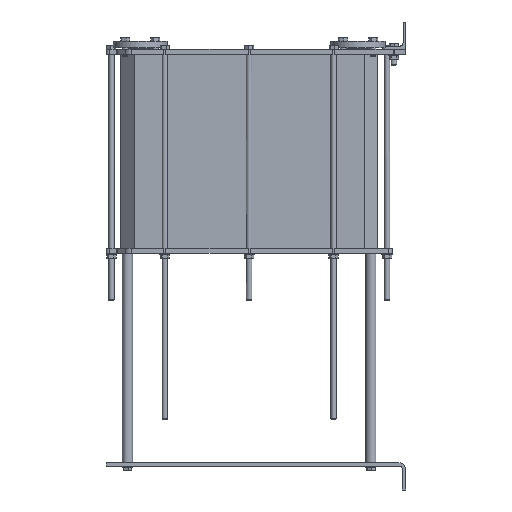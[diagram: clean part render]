
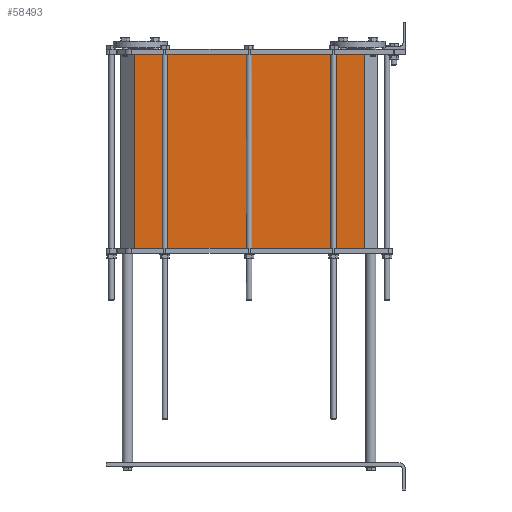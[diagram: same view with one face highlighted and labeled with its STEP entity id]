
A CAD part, left-side view. The second image highlights one B-rep face of the part: STEP entity #58493.
In plain terms, the highlighted planar face has unit normal (-1, 0, 0).
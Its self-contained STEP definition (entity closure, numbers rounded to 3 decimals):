
#3944 = ORIENTED_EDGE ( 'NONE', *, *, #44233, .F. ) ;
#5908 = LINE ( 'NONE', #21683, #57330 ) ;
#8636 = CARTESIAN_POINT ( 'NONE',  ( 22., 122., -95. ) ) ;
#9092 = VECTOR ( 'NONE', #87095, 1000. ) ;
#18294 = EDGE_CURVE ( 'NONE', #81542, #79340, #5908, .T. ) ;
#21683 = CARTESIAN_POINT ( 'NONE',  ( 22., 798., -95. ) ) ;
#35340 = CARTESIAN_POINT ( 'NONE',  ( 22., 122., -95. ) ) ;
#41490 = LINE ( 'NONE', #61319, #76993 ) ;
#42696 = DIRECTION ( 'NONE',  ( -1., 0., 0. ) ) ;
#42757 = CARTESIAN_POINT ( 'NONE',  ( 22., 798., -665. ) ) ;
#43257 = AXIS2_PLACEMENT_3D ( 'NONE', #35340, #42696, #93810 ) ;
#44233 = EDGE_CURVE ( 'NONE', #75331, #51010, #54867, .T. ) ;
#46237 = EDGE_CURVE ( 'NONE', #81542, #75331, #41490, .T. ) ;
#48116 = ORIENTED_EDGE ( 'NONE', *, *, #46237, .F. ) ;
#50109 = CARTESIAN_POINT ( 'NONE',  ( 22., 122., -95. ) ) ;
#51010 = VERTEX_POINT ( 'NONE', #67858 ) ;
#54867 = LINE ( 'NONE', #8636, #59430 ) ;
#56540 = ORIENTED_EDGE ( 'NONE', *, *, #93212, .F. ) ;
#57330 = VECTOR ( 'NONE', #93971, 1000. ) ;
#58231 = LINE ( 'NONE', #42757, #9092 ) ;
#58493 = ADVANCED_FACE ( 'NONE', ( #60105 ), #79138, .T. ) ;
#59430 = VECTOR ( 'NONE', #81843, 1000. ) ;
#60105 = FACE_OUTER_BOUND ( 'NONE', #81129, .T. ) ;
#61319 = CARTESIAN_POINT ( 'NONE',  ( 22., 798., -95. ) ) ;
#61673 = CARTESIAN_POINT ( 'NONE',  ( 22., 798., -665. ) ) ;
#62350 = ORIENTED_EDGE ( 'NONE', *, *, #18294, .T. ) ;
#67858 = CARTESIAN_POINT ( 'NONE',  ( 22., 122., -665. ) ) ;
#75331 = VERTEX_POINT ( 'NONE', #50109 ) ;
#76993 = VECTOR ( 'NONE', #83338, 1000. ) ;
#79138 = PLANE ( 'NONE',  #43257 ) ;
#79340 = VERTEX_POINT ( 'NONE', #61673 ) ;
#81129 = EDGE_LOOP ( 'NONE', ( #48116, #62350, #56540, #3944 ) ) ;
#81542 = VERTEX_POINT ( 'NONE', #90772 ) ;
#81843 = DIRECTION ( 'NONE',  ( 0., 0., -1. ) ) ;
#83338 = DIRECTION ( 'NONE',  ( 0., -1., 0. ) ) ;
#87095 = DIRECTION ( 'NONE',  ( 0., 1., 0. ) ) ;
#90772 = CARTESIAN_POINT ( 'NONE',  ( 22., 798., -95. ) ) ;
#93212 = EDGE_CURVE ( 'NONE', #51010, #79340, #58231, .T. ) ;
#93810 = DIRECTION ( 'NONE',  ( 0., 1., 0. ) ) ;
#93971 = DIRECTION ( 'NONE',  ( 0., 0., -1. ) ) ;
